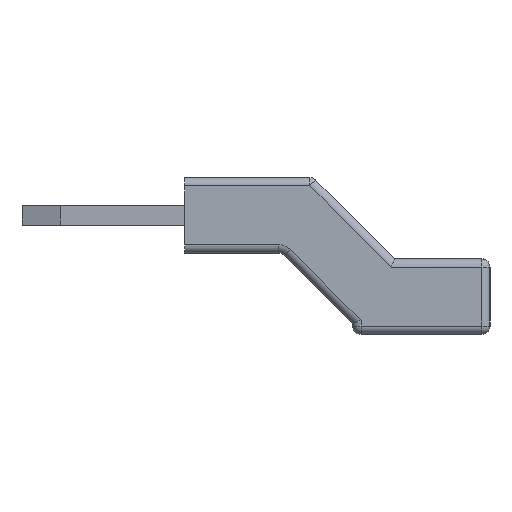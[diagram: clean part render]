
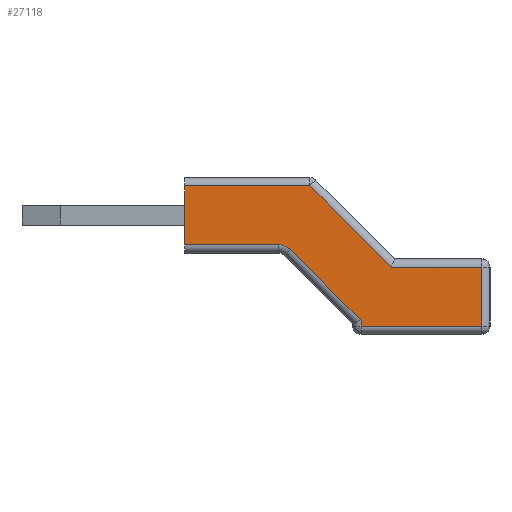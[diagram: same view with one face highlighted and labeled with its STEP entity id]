
A CAD part, left-side view. The second image highlights one B-rep face of the part: STEP entity #27118.
In plain terms, the highlighted planar face has unit normal (-1, 0, 0).
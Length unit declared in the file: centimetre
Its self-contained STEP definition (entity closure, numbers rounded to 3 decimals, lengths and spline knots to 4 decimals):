
#1195=CIRCLE('',#28631,0.06);
#2105=FACE_OUTER_BOUND('',#3732,.T.);
#3732=EDGE_LOOP('',(#19561,#19562,#19563,#19564,#19565,#19566,#19567,#19568,
#19569,#19570));
#5866=LINE('',#38369,#8726);
#5870=LINE('',#38394,#8730);
#5875=LINE('',#38412,#8735);
#5876=LINE('',#38415,#8736);
#5879=LINE('',#38422,#8739);
#6155=LINE('',#39508,#9015);
#6158=LINE('',#39514,#9018);
#6160=LINE('',#39518,#9020);
#6162=LINE('',#39523,#9022);
#8726=VECTOR('',#31817,0.21);
#8730=VECTOR('',#31845,0.43);
#8735=VECTOR('',#31864,0.0206);
#8736=VECTOR('',#31869,0.3562);
#8739=VECTOR('',#31876,0.3357);
#9015=VECTOR('',#32530,0.4476);
#9018=VECTOR('',#32535,0.4101);
#9020=VECTOR('',#32541,0.3224);
#9022=VECTOR('',#32549,0.21);
#11436=VERTEX_POINT('',#38350);
#11440=VERTEX_POINT('',#38362);
#11448=VERTEX_POINT('',#38382);
#11453=VERTEX_POINT('',#38398);
#11455=VERTEX_POINT('',#38402);
#11457=VERTEX_POINT('',#38411);
#11458=VERTEX_POINT('',#38418);
#11797=VERTEX_POINT('',#39482);
#11804=VERTEX_POINT('',#39506);
#11806=VERTEX_POINT('',#39513);
#14230=EDGE_CURVE('',#11440,#11436,#5866,.T.);
#14242=EDGE_CURVE('',#11436,#11448,#5870,.T.);
#14247=EDGE_CURVE('',#11455,#11453,#1195,.T.);
#14251=EDGE_CURVE('',#11448,#11457,#5875,.T.);
#14253=EDGE_CURVE('',#11457,#11455,#5876,.T.);
#14257=EDGE_CURVE('',#11453,#11458,#5879,.T.);
#14700=EDGE_CURVE('',#11804,#11797,#6155,.T.);
#14703=EDGE_CURVE('',#11797,#11806,#6158,.T.);
#14706=EDGE_CURVE('',#11806,#11440,#6160,.T.);
#14708=EDGE_CURVE('',#11458,#11804,#6162,.T.);
#19561=ORIENTED_EDGE('',*,*,#14230,.F.);
#19562=ORIENTED_EDGE('',*,*,#14706,.F.);
#19563=ORIENTED_EDGE('',*,*,#14703,.F.);
#19564=ORIENTED_EDGE('',*,*,#14700,.F.);
#19565=ORIENTED_EDGE('',*,*,#14708,.F.);
#19566=ORIENTED_EDGE('',*,*,#14257,.F.);
#19567=ORIENTED_EDGE('',*,*,#14247,.F.);
#19568=ORIENTED_EDGE('',*,*,#14253,.F.);
#19569=ORIENTED_EDGE('',*,*,#14251,.F.);
#19570=ORIENTED_EDGE('',*,*,#14242,.F.);
#24488=PLANE('',#28832);
#27118=ADVANCED_FACE('',(#2105),#24488,.T.);
#28631=AXIS2_PLACEMENT_3D('',#38404,#31855,#31856);
#28832=AXIS2_PLACEMENT_3D('',#39522,#32547,#32548);
#31817=DIRECTION('',(0.,0.,-1.));
#31845=DIRECTION('',(0.,1.,0.));
#31855=DIRECTION('center_axis',(-1.,0.,0.));
#31856=DIRECTION('ref_axis',(0.,-0.383,0.924));
#31864=DIRECTION('',(0.,0.,1.));
#31869=DIRECTION('',(0.,0.707,0.707));
#31876=DIRECTION('',(0.,1.,0.));
#32530=DIRECTION('',(0.,-1.,0.));
#32535=DIRECTION('',(0.,-0.707,-0.707));
#32541=DIRECTION('',(0.,-1.,0.));
#32547=DIRECTION('center_axis',(-1.,0.,0.));
#32548=DIRECTION('ref_axis',(0.,0.,1.));
#32549=DIRECTION('',(0.,0.,1.));
#38350=CARTESIAN_POINT('',(0.,0.03,0.03));
#38362=CARTESIAN_POINT('',(0.,0.03,0.24));
#38369=CARTESIAN_POINT('',(0.,0.03,0.));
#38382=CARTESIAN_POINT('',(0.,0.46,0.03));
#38394=CARTESIAN_POINT('',(0.,0.1225,0.03));
#38398=CARTESIAN_POINT('',(0.,0.7543,0.32));
#38402=CARTESIAN_POINT('',(0.,0.7118,0.3024));
#38404=CARTESIAN_POINT('Origin',(0.,0.7543,0.26));
#38411=CARTESIAN_POINT('',(0.,0.46,0.0506));
#38412=CARTESIAN_POINT('',(0.,0.46,0.));
#38415=CARTESIAN_POINT('',(0.,0.3367,-0.0727));
#38418=CARTESIAN_POINT('',(0.,1.09,0.32));
#38422=CARTESIAN_POINT('',(0.,0.3709,0.32));
#39482=CARTESIAN_POINT('',(0.,0.6424,0.53));
#39506=CARTESIAN_POINT('',(0.,1.09,0.53));
#39508=CARTESIAN_POINT('',(0.,0.545,0.53));
#39513=CARTESIAN_POINT('',(0.,0.3524,0.24));
#39514=CARTESIAN_POINT('',(0.,0.3537,0.2413));
#39518=CARTESIAN_POINT('',(0.,0.1225,0.24));
#39522=CARTESIAN_POINT('Origin',(0.,0.,0.));
#39523=CARTESIAN_POINT('',(0.,1.09,0.56));
